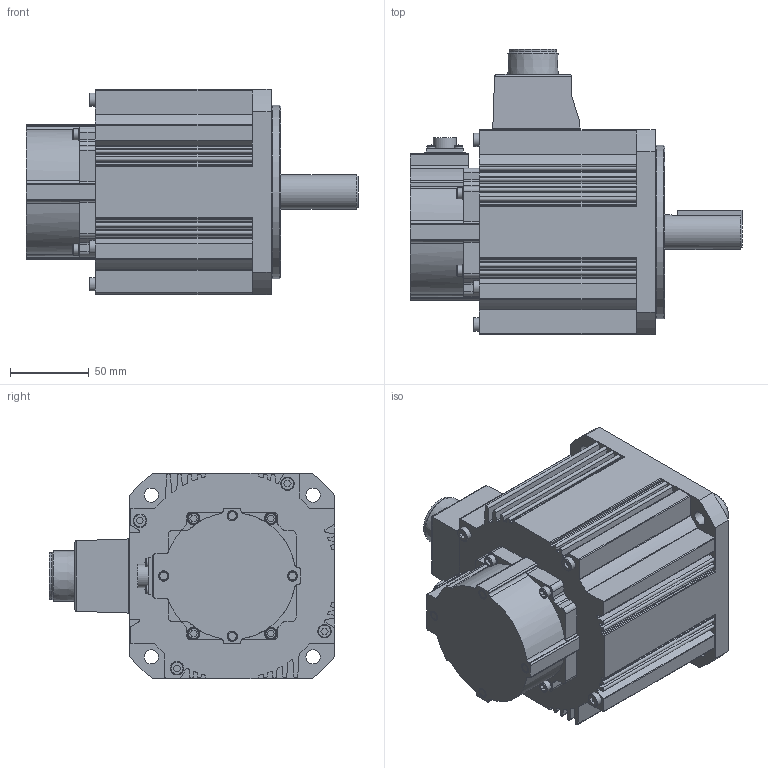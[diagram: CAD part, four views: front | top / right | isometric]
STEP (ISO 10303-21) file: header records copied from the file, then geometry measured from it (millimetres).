
FILE_DESCRIPTION( ( 'STEP AP0' ), '1' );
FILE_NAME( '//expscmdclustefs.cadenas.external/client_exchange/iodir/jobs/output/wkb64902606_no0/STEP/MDME152G1G_2_03.stp', ' ', ( ' ' ), ( ' ' ), 'PSStep 15.0.47', 'PARTsolutions', ' ' );
FILE_SCHEMA( ( 'CONFIG_CONTROL_DESIGN' ) );
Length unit declared in the file: millimetre
Products named in the file (1): HI_MDME152G1G
Bounding box: 210.5 x 181 x 130 mm (x, y, z)
Volume: 2034787.4 mm3; surface area: 141115.3 mm2
Topology: 1 solids, 1 shells, 544 faces, 1436 edges, 942 vertices
Faces by surface type: plane 281, cylinder 224, cone 18, torus 17, sphere 4
Full cylindrical faces by diameter (mm): 2.459 x1, 5.5 x4, 6.5 x4, 7 x4, 8.5 x4, 9 x4, 10.1 x4, 10.5 x4, 14.8 x1, 22 x1, 29.74 x1, 34 x1, 38 x1, 45 x1, 102 x1, 110 x1
Entity records: 16723 total; most frequent: CARTESIAN_POINT 3121, DIRECTION 2901, ORIENTED_EDGE 2708, EDGE_CURVE 1354, AXIS2_PLACEMENT_3D 1037, VERTEX_POINT 935, LINE 827, VECTOR 827
